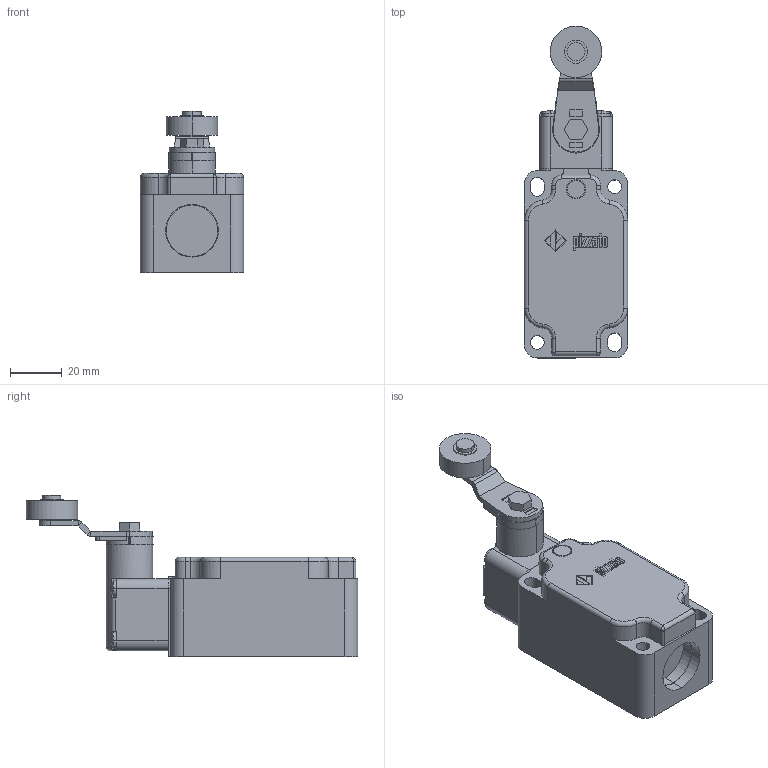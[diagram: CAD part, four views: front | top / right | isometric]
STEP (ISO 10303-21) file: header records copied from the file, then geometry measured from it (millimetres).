
FILE_DESCRIPTION (( 'STEP AP203' ), '1' );
FILE_NAME ('ZF_STEP_FP_x31_A10.step', '2010-02-26T18:43:44', ( 'fabio' ), ( '' ), 'SwSTEP 2.0', 'SolidWorks 2009', '' );
FILE_SCHEMA (( 'CONFIG_CONTROL_DESIGN' ));
Length unit declared in the file: millimetre
Products named in the file (8): ZF_VF_L31_A10; ZF_STEP_VF_T38_A10_Lung Vite 2mm; Pizzato_supporto-leva_serie_pesanti_262; ZF_STEP_FP_x31_A10; Pizzato_Custodia_FP; ZF_STEP_VF_T31_A10; Pizzato_L31; Vite_leve_pesanti
Assembly tree (7 placements, depth 4):
  ZF_STEP_FP_x31_A10
    Pizzato_Custodia_FP
    ZF_STEP_VF_T31_A10
      ZF_STEP_VF_T38_A10_Lung Vite 2mm
      ZF_VF_L31_A10
        Pizzato_L31
        Vite_leve_pesanti
        Pizzato_supporto-leva_serie_pesanti_262
Bounding box: 40 x 128.52 x 62.43 mm (x, y, z)
Volume: 125777.9 mm3; surface area: 27114.1 mm2
Topology: 5 solids, 5 shells, 842 faces, 2307 edges, 1523 vertices
Faces by surface type: plane 449, cylinder 298, bspline 75, torus 12, sphere 8
Entity records: 33408 total; most frequent: CARTESIAN_POINT 11083, ORIENTED_EDGE 4610, DIRECTION 4330, EDGE_CURVE 2305, VERTEX_POINT 1523, VECTOR 1514, LINE 1514, AXIS2_PLACEMENT_3D 1408
